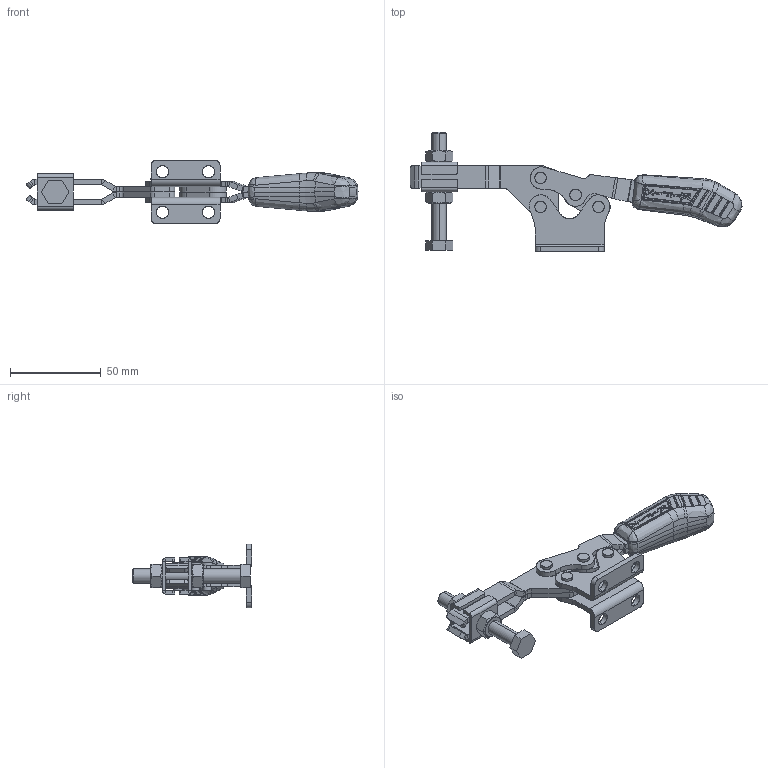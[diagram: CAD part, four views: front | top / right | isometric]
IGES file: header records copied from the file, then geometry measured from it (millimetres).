
Start section: SolidWorks IGES file using analytic representation for surfaces
Global section: file name: C:\Projetos\Grampos\KF-522\KF-522 D\KF-522 D.IGS; native system: SolidWorks 2013; preprocessor: SolidWorks 2013; author: Ricardo; date: 140818.095412; units: millimetre
Bounding box: 183.33 x 66 x 35.1 mm (x, y, z)
Surface area: 35364.8 mm2 (no closed solid volume)
Topology: 0 solids, 0 shells, 1016 faces, 10559 edges, 10497 vertices
Faces by surface type: bspline 590, revolution 426
